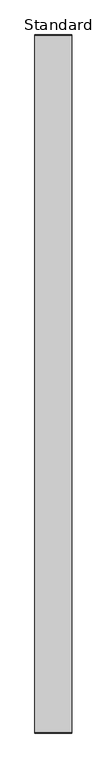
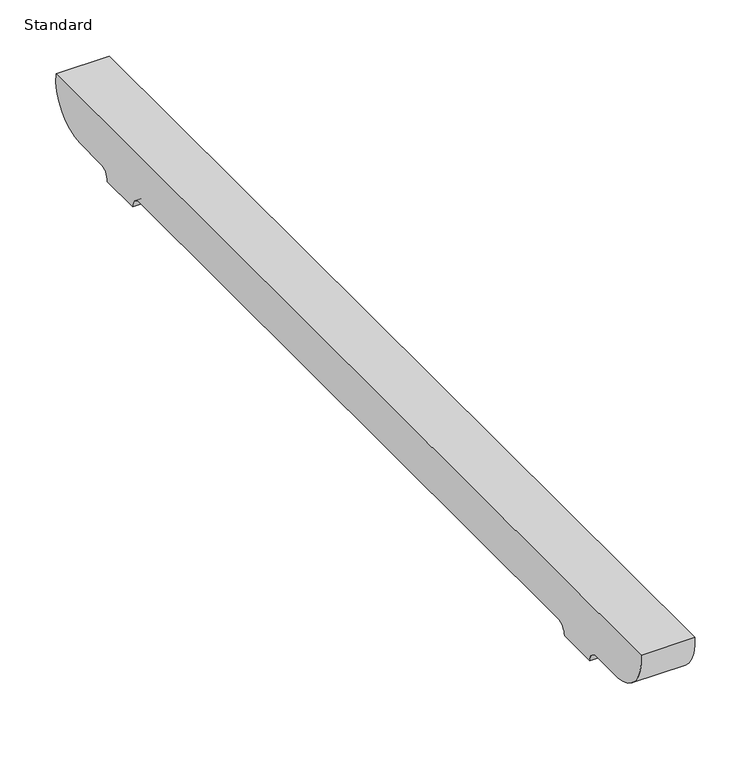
"""IFC4 building model written with IfcOpenShell, lengths in millimetres: furniture geometry, BDG_BossDesign_Tbls_AgentTables4Legs_MiddleCrossBeamNested : Standard."""

from ifc_helpers import new_model, si_unit, point, frame, frame_2d, origin, place, context, project, spatial, polyline, circle_curve, trimmed, segment, composite_curve, outline, extrude, source, transform, mapped, element, save


def standard_83b622b6(model_context):
    return source(origin(), model_context, "Body", "SweptSolid", [
        extrude(outline(composite_curve([segment(polyline([(480.5450184, 672.0), (442.7000122, 672.0)]), True, "CONTINUOUS"), segment(trimmed(circle_curve(frame_2d((442.7000122, 660.0)), 12.0), [point((442.7000122, 672.0))], [point((430.7000122, 660.0))], True, "CARTESIAN"), True, "CONTINUOUS"), segment(polyline([(430.7000122, 660.0), (385.7000122, 660.0)]), True, "CONTINUOUS"), segment(trimmed(circle_curve(frame_2d((373.7000122, 660.0)), 12.0), [point((385.7000122, 660.0))], [point((373.7000122, 672.0))], True, "CARTESIAN"), True, "CONTINUOUS"), segment(polyline([(373.7000122, 672.0), (-373.7000122, 672.0)]), True, "CONTINUOUS"), segment(trimmed(circle_curve(frame_2d((-373.7000122, 660.0)), 12.0), [point((-373.7000122, 672.0))], [point((-385.7000122, 660.0))], True, "CARTESIAN"), True, "CONTINUOUS"), segment(polyline([(-385.7000122, 660.0), (-430.7000122, 660.0)]), True, "CONTINUOUS"), segment(trimmed(circle_curve(frame_2d((-442.7000122, 660.0)), 12.0), [point((-430.7000122, 660.0))], [point((-442.7000122, 672.0))], True, "CARTESIAN"), True, "CONTINUOUS"), segment(polyline([(-442.7000122, 672.0), (-480.5450184, 672.0)]), True, "CONTINUOUS"), segment(trimmed(circle_curve(frame_2d((-478.2220439, 716.5514119)), 44.6119324), [point((-480.5450184, 672.0))], [point((-522.5, 722.0))], False, "CARTESIAN"), True, "CONTINUOUS"), segment(polyline([(-522.5, 722.0), (522.5, 722.0)]), True, "CONTINUOUS"), segment(trimmed(circle_curve(frame_2d((478.2220439, 716.5514119)), 44.6119324), [point((522.5, 722.0))], [point((480.5450184, 672.0))], False, "CARTESIAN"), True, "CONTINUOUS")], self_intersect=False)), frame((-27.5, 0.0, 0.0), z_axis=(1.0, 0.0, 0.0), x_axis=(0.0, 1.0, 0.0)), (0.0, 0.0, 1.0), 55.0),
    ])


if __name__ == "__main__":
    model = new_model("IFC4")
    model_context = context("Model", 3, world=origin())
    ifc_project = project(units=[si_unit("LENGTHUNIT", "METRE", prefix="MILLI")], contexts=[model_context])
    site = spatial("IfcSite", under=ifc_project)
    building = spatial("IfcBuilding", under=site)
    placement = place(None, origin())
    standard_shape = standard_83b622b6(model_context)
    element("IfcFurniture", 1, ObjectType="BDG_BossDesign_Tbls_AgentTables4Legs_MiddleCrossBeamNested : Standard", at=placement, inside=building, context=model_context, shape_type="MappedRepresentation", body=[
        mapped(standard_shape, transform((0.0, 0.0, 0.0), x_axis=(1.0, 0.0, 0.0), y_axis=(0.0, 1.0, 0.0), z_axis=(0.0, 0.0, 1.0))),
    ])
    save(model, "model.ifc")
